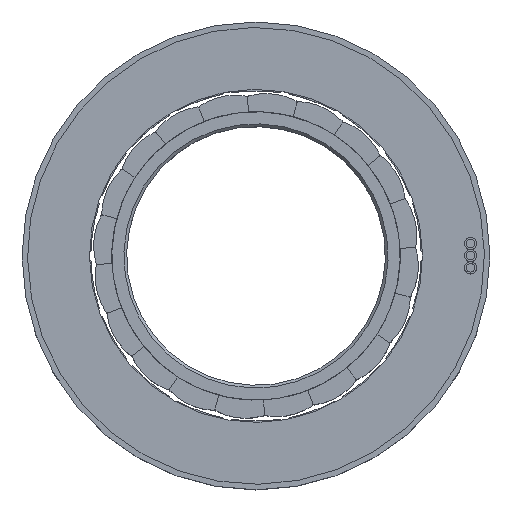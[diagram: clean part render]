
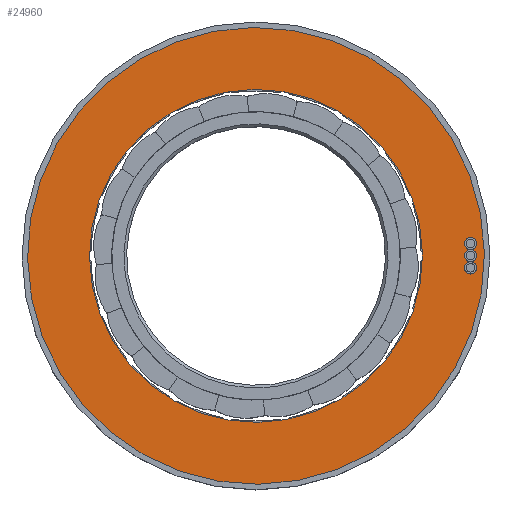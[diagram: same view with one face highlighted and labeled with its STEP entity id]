
A CAD part, top view. The second image highlights one B-rep face of the part: STEP entity #24960.
In plain terms, the highlighted planar face has unit normal (0, 0, 1).
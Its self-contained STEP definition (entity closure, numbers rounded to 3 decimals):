
#3107 = ORIENTED_EDGE ( 'NONE', *, *, #3779, .F. ) ;
#3779 = EDGE_CURVE ( 'NONE', #13709, #13709, #6241, .T. ) ;
#4431 = CARTESIAN_POINT ( 'NONE',  ( 0., 0., 20.4 ) ) ;
#4535 = AXIS2_PLACEMENT_3D ( 'NONE', #8322, #22393, #20086 ) ;
#6241 = CIRCLE ( 'NONE', #22033, 30.25 ) ;
#8322 = CARTESIAN_POINT ( 'NONE',  ( 0., 0., 20.4 ) ) ;
#9341 = DIRECTION ( 'NONE',  ( 0.872, -0.49, 0. ) ) ;
#9890 = FACE_BOUND ( 'NONE', #23289, .T. ) ;
#9991 = EDGE_CURVE ( 'NONE', #23712, #23712, #21407, .T. ) ;
#12562 = AXIS2_PLACEMENT_3D ( 'NONE', #21233, #23235, #9341 ) ;
#13709 = VERTEX_POINT ( 'NONE', #18929 ) ;
#16381 = ORIENTED_EDGE ( 'NONE', *, *, #9991, .T. ) ;
#18826 = DIRECTION ( 'NONE',  ( 0.872, -0.49, 0. ) ) ;
#18929 = CARTESIAN_POINT ( 'NONE',  ( 26.369, -14.823, 20.4 ) ) ;
#20086 = DIRECTION ( 'NONE',  ( 0.872, -0.49, 0. ) ) ;
#20932 = CARTESIAN_POINT ( 'NONE',  ( 36.176, -20.336, 20.4 ) ) ;
#21040 = FACE_OUTER_BOUND ( 'NONE', #30085, .T. ) ;
#21233 = CARTESIAN_POINT ( 'NONE',  ( 0., 0., 20.4 ) ) ;
#21407 = CIRCLE ( 'NONE', #12562, 41.5 ) ;
#21453 = DIRECTION ( 'NONE',  ( 0., 0., 1. ) ) ;
#22033 = AXIS2_PLACEMENT_3D ( 'NONE', #4431, #21453, #18826 ) ;
#22393 = DIRECTION ( 'NONE',  ( 0., 0., 1. ) ) ;
#23235 = DIRECTION ( 'NONE',  ( 0., 0., 1. ) ) ;
#23289 = EDGE_LOOP ( 'NONE', ( #3107 ) ) ;
#23712 = VERTEX_POINT ( 'NONE', #20932 ) ;
#24960 = ADVANCED_FACE ( 'NONE', ( #21040, #9890 ), #28643, .T. ) ;
#28643 = PLANE ( 'NONE',  #4535 ) ;
#30085 = EDGE_LOOP ( 'NONE', ( #16381 ) ) ;
